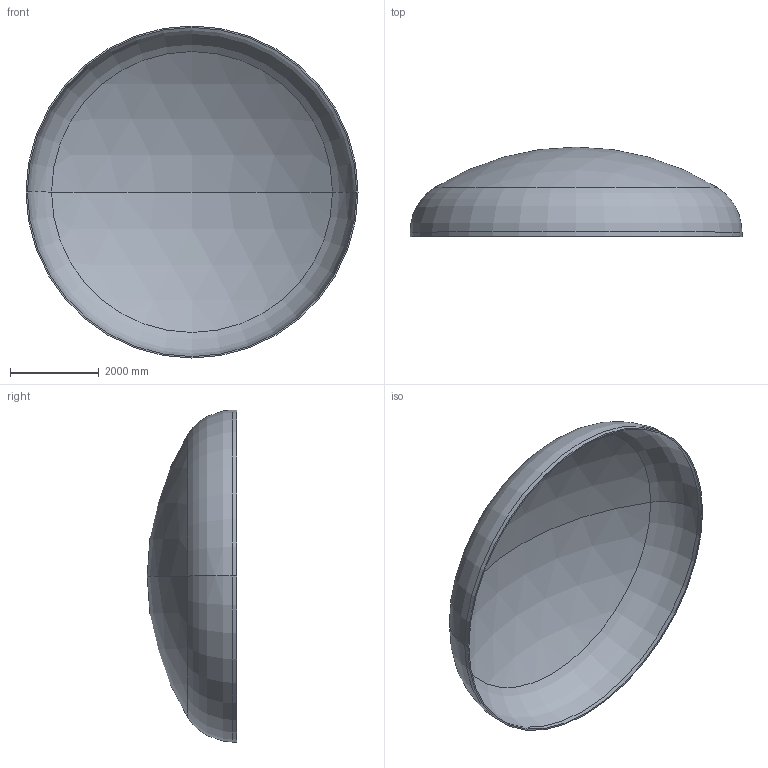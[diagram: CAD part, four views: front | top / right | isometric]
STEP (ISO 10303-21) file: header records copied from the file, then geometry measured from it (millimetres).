
FILE_DESCRIPTION (( 'STEP AP203' ), '1' );
FILE_NAME ('DIN 28013 Korbbogenform_-_Boden DIN 28013 - 7500 x 100 - I - s=33.step', '2016-07-04T10:53:09', ( '' ), ( '' ), 'SwSTEP 2.0', 'SolidWorks 2013', '' );
FILE_SCHEMA (( 'CONFIG_CONTROL_DESIGN' ));
Length unit declared in the file: millimetre
Products named in the file (1): DIN 28013 Korbbogenform_-_Boden DIN 28013 - 7500 x 100 - I - s=33
Bounding box: 7500 x 2020.8 x 7500 mm (x, y, z)
Volume: 2084954609 mm3; surface area: 127137238.7 mm2
Topology: 1 solids, 1 shells, 13 faces, 24 edges, 14 vertices
Faces by surface type: torus 4, cylinder 4, sphere 4, plane 1
Entity records: 407 total; most frequent: DIRECTION 72, CARTESIAN_POINT 52, ORIENTED_EDGE 48, AXIS2_PLACEMENT_3D 34, EDGE_CURVE 24, CIRCLE 20, EDGE_LOOP 14, VERTEX_POINT 14
